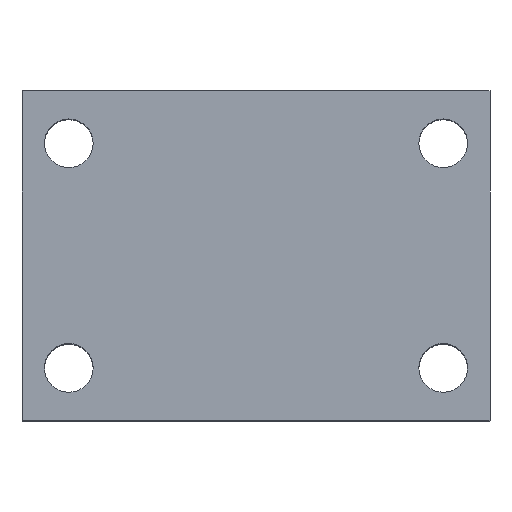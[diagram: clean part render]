
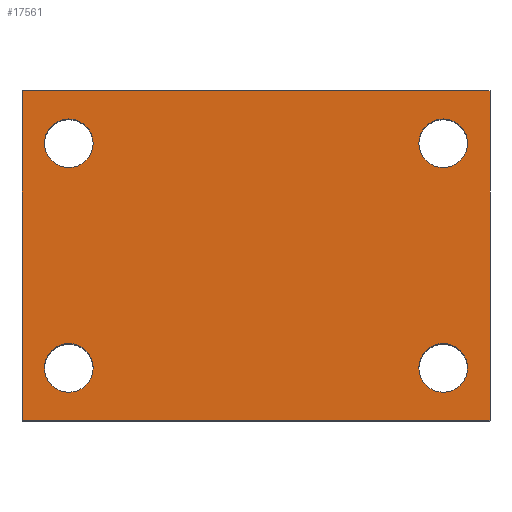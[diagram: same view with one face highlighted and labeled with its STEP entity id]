
A CAD part, top view. The second image highlights one B-rep face of the part: STEP entity #17561.
In plain terms, the highlighted planar face has unit normal (0, 0, 1).
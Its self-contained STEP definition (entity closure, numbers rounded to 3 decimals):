
#25 = CARTESIAN_POINT ( 'NONE',  ( -56.5, 14., 50. ) ) ;
#113 = DIRECTION ( 'NONE',  ( -1., 0., 0. ) ) ;
#347 = EDGE_LOOP ( 'NONE', ( #2987, #13010 ) ) ;
#506 = VERTEX_POINT ( 'NONE', #2017 ) ;
#722 = EDGE_CURVE ( 'NONE', #10940, #10903, #15490, .T. ) ;
#802 = PLANE ( 'NONE',  #10650 ) ;
#853 = EDGE_LOOP ( 'NONE', ( #5227, #17889 ) ) ;
#1045 = FACE_BOUND ( 'NONE', #1897, .T. ) ;
#1073 = CARTESIAN_POINT ( 'NONE',  ( 43.5, 74., 50. ) ) ;
#1222 = CARTESIAN_POINT ( 'NONE',  ( -56.5, 74., 50. ) ) ;
#1391 = AXIS2_PLACEMENT_3D ( 'NONE', #11406, #3228, #12781 ) ;
#1589 = CARTESIAN_POINT ( 'NONE',  ( 62.5, 0., 50. ) ) ;
#1719 = VERTEX_POINT ( 'NONE', #12636 ) ;
#1897 = EDGE_LOOP ( 'NONE', ( #4566, #4594 ) ) ;
#1932 = CARTESIAN_POINT ( 'NONE',  ( -62.5, 88., 50. ) ) ;
#1986 = VERTEX_POINT ( 'NONE', #13428 ) ;
#1996 = DIRECTION ( 'NONE',  ( 1., 0., 0. ) ) ;
#2017 = CARTESIAN_POINT ( 'NONE',  ( 56.5, 14., 50. ) ) ;
#2060 = DIRECTION ( 'NONE',  ( 0., 0., -1. ) ) ;
#2310 = EDGE_CURVE ( 'NONE', #12379, #12119, #7299, .T. ) ;
#2438 = EDGE_CURVE ( 'NONE', #506, #14056, #9996, .T. ) ;
#2987 = ORIENTED_EDGE ( 'NONE', *, *, #12911, .T. ) ;
#3074 = DIRECTION ( 'NONE',  ( 0., 0., -1. ) ) ;
#3228 = DIRECTION ( 'NONE',  ( 0., 0., -1. ) ) ;
#3247 = CIRCLE ( 'NONE', #9826, 6.5 ) ;
#3519 = AXIS2_PLACEMENT_3D ( 'NONE', #12432, #4261, #13784 ) ;
#3991 = ORIENTED_EDGE ( 'NONE', *, *, #4323, .T. ) ;
#4261 = DIRECTION ( 'NONE',  ( 0., 0., -1. ) ) ;
#4323 = EDGE_CURVE ( 'NONE', #11562, #1986, #16258, .T. ) ;
#4444 = FACE_OUTER_BOUND ( 'NONE', #17068, .T. ) ;
#4566 = ORIENTED_EDGE ( 'NONE', *, *, #7295, .T. ) ;
#4594 = ORIENTED_EDGE ( 'NONE', *, *, #2438, .T. ) ;
#4748 = CIRCLE ( 'NONE', #8626, 6.5 ) ;
#4820 = DIRECTION ( 'NONE',  ( 1., 0., 0. ) ) ;
#5016 = CARTESIAN_POINT ( 'NONE',  ( 43.5, 14., 50. ) ) ;
#5022 = DIRECTION ( 'NONE',  ( 0., 0., -1. ) ) ;
#5164 = VERTEX_POINT ( 'NONE', #10662 ) ;
#5172 = LINE ( 'NONE', #1932, #12365 ) ;
#5227 = ORIENTED_EDGE ( 'NONE', *, *, #2310, .T. ) ;
#5284 = CARTESIAN_POINT ( 'NONE',  ( 50., 74., 50. ) ) ;
#5739 = DIRECTION ( 'NONE',  ( 0., -1., 0. ) ) ;
#6220 = AXIS2_PLACEMENT_3D ( 'NONE', #13131, #5022, #14477 ) ;
#6365 = CARTESIAN_POINT ( 'NONE',  ( 56.5, 74., 50. ) ) ;
#6526 = CARTESIAN_POINT ( 'NONE',  ( -62.5, 88., 50. ) ) ;
#6641 = DIRECTION ( 'NONE',  ( -1., 0., 0. ) ) ;
#6687 = DIRECTION ( 'NONE',  ( -1., 0., 0. ) ) ;
#6942 = CIRCLE ( 'NONE', #11880, 6.5 ) ;
#7226 = CARTESIAN_POINT ( 'NONE',  ( -62.5, 0., 50. ) ) ;
#7295 = EDGE_CURVE ( 'NONE', #14056, #506, #3247, .T. ) ;
#7299 = CIRCLE ( 'NONE', #1391, 6.5 ) ;
#7363 = CARTESIAN_POINT ( 'NONE',  ( -62.5, 0., 50. ) ) ;
#7381 = ORIENTED_EDGE ( 'NONE', *, *, #14873, .T. ) ;
#7647 = CARTESIAN_POINT ( 'NONE',  ( -62.5, 88., 50. ) ) ;
#7659 = EDGE_CURVE ( 'NONE', #5164, #10903, #11141, .T. ) ;
#7850 = CIRCLE ( 'NONE', #3519, 6.5 ) ;
#7861 = DIRECTION ( 'NONE',  ( 0., 0., -1. ) ) ;
#7956 = ORIENTED_EDGE ( 'NONE', *, *, #722, .T. ) ;
#8134 = FACE_BOUND ( 'NONE', #853, .T. ) ;
#8617 = DIRECTION ( 'NONE',  ( 0., 0., -1. ) ) ;
#8626 = AXIS2_PLACEMENT_3D ( 'NONE', #15873, #7861, #17246 ) ;
#8659 = EDGE_CURVE ( 'NONE', #12849, #12284, #11810, .T. ) ;
#9536 = ORIENTED_EDGE ( 'NONE', *, *, #13994, .F. ) ;
#9826 = AXIS2_PLACEMENT_3D ( 'NONE', #10342, #2060, #11697 ) ;
#9944 = EDGE_CURVE ( 'NONE', #12119, #12379, #7850, .T. ) ;
#9996 = CIRCLE ( 'NONE', #6220, 6.5 ) ;
#10342 = CARTESIAN_POINT ( 'NONE',  ( 50., 14., 50. ) ) ;
#10540 = ORIENTED_EDGE ( 'NONE', *, *, #12202, .T. ) ;
#10650 = AXIS2_PLACEMENT_3D ( 'NONE', #6526, #14674, #6641 ) ;
#10662 = CARTESIAN_POINT ( 'NONE',  ( 62.5, 88., 50. ) ) ;
#10903 = VERTEX_POINT ( 'NONE', #1589 ) ;
#10926 = AXIS2_PLACEMENT_3D ( 'NONE', #11259, #3074, #12646 ) ;
#10940 = VERTEX_POINT ( 'NONE', #7363 ) ;
#11141 = LINE ( 'NONE', #14052, #12001 ) ;
#11259 = CARTESIAN_POINT ( 'NONE',  ( 50., 74., 50. ) ) ;
#11406 = CARTESIAN_POINT ( 'NONE',  ( -50., 14., 50. ) ) ;
#11562 = VERTEX_POINT ( 'NONE', #1222 ) ;
#11691 = FACE_BOUND ( 'NONE', #13235, .T. ) ;
#11697 = DIRECTION ( 'NONE',  ( -1., 0., 0. ) ) ;
#11810 = CIRCLE ( 'NONE', #10926, 6.5 ) ;
#11880 = AXIS2_PLACEMENT_3D ( 'NONE', #5284, #14721, #6687 ) ;
#11911 = VECTOR ( 'NONE', #4820, 1000. ) ;
#11919 = LINE ( 'NONE', #7647, #16336 ) ;
#12001 = VECTOR ( 'NONE', #5739, 1000. ) ;
#12119 = VERTEX_POINT ( 'NONE', #15586 ) ;
#12202 = EDGE_CURVE ( 'NONE', #1986, #11562, #4748, .T. ) ;
#12284 = VERTEX_POINT ( 'NONE', #1073 ) ;
#12365 = VECTOR ( 'NONE', #1996, 1000. ) ;
#12379 = VERTEX_POINT ( 'NONE', #25 ) ;
#12404 = AXIS2_PLACEMENT_3D ( 'NONE', #16658, #8617, #113 ) ;
#12432 = CARTESIAN_POINT ( 'NONE',  ( -50., 14., 50. ) ) ;
#12636 = CARTESIAN_POINT ( 'NONE',  ( -62.5, 88., 50. ) ) ;
#12646 = DIRECTION ( 'NONE',  ( -1., 0., 0. ) ) ;
#12781 = DIRECTION ( 'NONE',  ( -1., 0., 0. ) ) ;
#12849 = VERTEX_POINT ( 'NONE', #6365 ) ;
#12911 = EDGE_CURVE ( 'NONE', #12284, #12849, #6942, .T. ) ;
#13010 = ORIENTED_EDGE ( 'NONE', *, *, #8659, .T. ) ;
#13131 = CARTESIAN_POINT ( 'NONE',  ( 50., 14., 50. ) ) ;
#13235 = EDGE_LOOP ( 'NONE', ( #3991, #10540 ) ) ;
#13428 = CARTESIAN_POINT ( 'NONE',  ( -43.5, 74., 50. ) ) ;
#13784 = DIRECTION ( 'NONE',  ( -1., 0., 0. ) ) ;
#13994 = EDGE_CURVE ( 'NONE', #1719, #5164, #5172, .T. ) ;
#14052 = CARTESIAN_POINT ( 'NONE',  ( 62.5, 88., 50. ) ) ;
#14056 = VERTEX_POINT ( 'NONE', #5016 ) ;
#14477 = DIRECTION ( 'NONE',  ( -1., 0., 0. ) ) ;
#14674 = DIRECTION ( 'NONE',  ( 0., 0., -1. ) ) ;
#14721 = DIRECTION ( 'NONE',  ( 0., 0., -1. ) ) ;
#14873 = EDGE_CURVE ( 'NONE', #1719, #10940, #11919, .T. ) ;
#15274 = FACE_BOUND ( 'NONE', #347, .T. ) ;
#15490 = LINE ( 'NONE', #7226, #11911 ) ;
#15586 = CARTESIAN_POINT ( 'NONE',  ( -43.5, 14., 50. ) ) ;
#15607 = DIRECTION ( 'NONE',  ( 0., -1., 0. ) ) ;
#15873 = CARTESIAN_POINT ( 'NONE',  ( -50., 74., 50. ) ) ;
#16258 = CIRCLE ( 'NONE', #12404, 6.5 ) ;
#16336 = VECTOR ( 'NONE', #15607, 1000. ) ;
#16658 = CARTESIAN_POINT ( 'NONE',  ( -50., 74., 50. ) ) ;
#17068 = EDGE_LOOP ( 'NONE', ( #7956, #17756, #9536, #7381 ) ) ;
#17246 = DIRECTION ( 'NONE',  ( -1., 0., 0. ) ) ;
#17561 = ADVANCED_FACE ( 'NONE', ( #11691, #8134, #1045, #15274, #4444 ), #802, .F. ) ;
#17756 = ORIENTED_EDGE ( 'NONE', *, *, #7659, .F. ) ;
#17889 = ORIENTED_EDGE ( 'NONE', *, *, #9944, .T. ) ;
